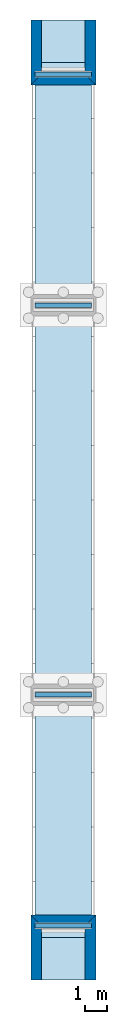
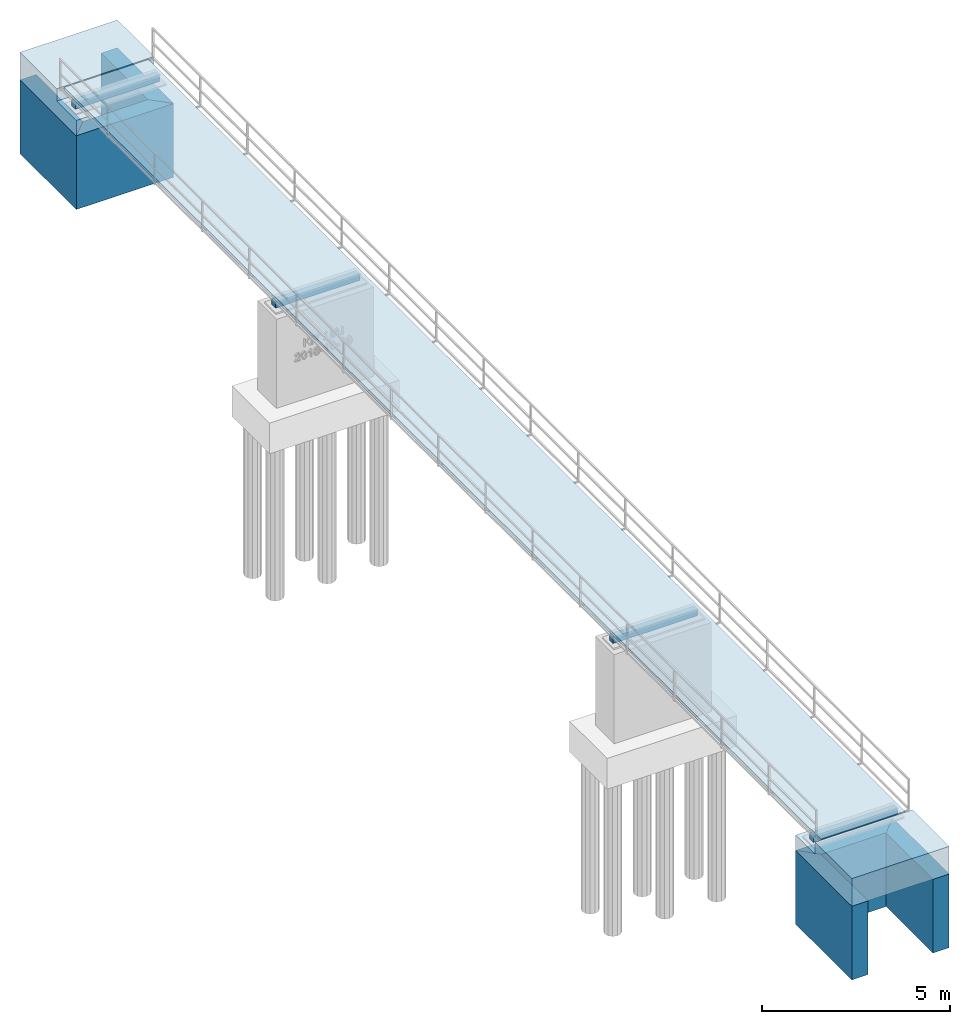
# Not in any storey, part 2 of 5: 6 walls, 4 bearings, 3 slabs.
"""IFC4X2 model written with IfcOpenShell, lengths in millimetres."""

from ifc_helpers import new_model, entity, si_unit, converted_unit, direction, frame, origin, origin_with_axes, place, context, project, spatial, faceted_brep, element, save


model = new_model("IFC4X2")

# Units and contexts
model_context = context("Model", 3, precision=1e-05, world=origin(), true_north=direction((0.0, 1.0)))
ifc_project = project(units=[si_unit("LENGTHUNIT", "METRE", prefix="MILLI"), si_unit("AREAUNIT", "SQUARE_METRE"), si_unit("VOLUMEUNIT", "CUBIC_METRE"), converted_unit("PLANEANGLEUNIT", "DEGREE", entity("IfcPlaneAngleMeasure", 0.01745), si_unit("PLANEANGLEUNIT", "RADIAN"), dimensions=[0, 0, 0, 0, 0, 0, 0]), si_unit("SOLIDANGLEUNIT", "STERADIAN"), si_unit("MASSUNIT", "GRAM"), si_unit("TIMEUNIT", "SECOND"), si_unit("THERMODYNAMICTEMPERATUREUNIT", "DEGREE_CELSIUS"), si_unit("LUMINOUSINTENSITYUNIT", "LUMEN")], contexts=[model_context])

# Site, bridge, bridge part
placement = place(None, origin_with_axes())
site_placement = place(placement, frame((-19933.8083659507, -30174.99999999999, -13595.54569832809), z_axis=(0.0, 0.0, 1.0), x_axis=(1.0, 0.0, 0.0)))
site = spatial("IfcSite", under=ifc_project, at=site_placement, Name="Default Site", CompositionType="ELEMENT")
bridge_placement = place(placement, origin_with_axes())
bridge = spatial("IfcBridge", under=site, at=bridge_placement, Name="KIT - Bridge", CompositionType="ELEMENT")
bridge_part_1_placement = place(bridge_placement, origin_with_axes())
bridge_part_1 = spatial("IfcBridgePart", under=bridge, at=bridge_part_1_placement, Name="Substructure", CompositionType="ELEMENT", PredefinedType="SUPERSTRUCTURE")

# Bearings
bearing_1_placement = place(bridge_part_1_placement, frame((700.0, 18900.0, 2950.000000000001), z_axis=(0.0, 0.0, 1.0), x_axis=(1.0, 0.0, 0.0)))
element("IfcBearing", 1, at=bearing_1_placement, inside=bridge_part_1, Name="Bearing-02", PredefinedType="ELASTOMERIC", context=model_context, shape_type="Brep", body=[
    faceted_brep([(2600.0, 200.0000000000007, 0.0), (0.0, 200.0000000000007, 0.0), (0.0, 200.0000000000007, 200.0), (2600.0, 200.0000000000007, 200.0), (0.0, 0.0, 0.0), (0.0, 0.0, 200.0), (2600.0, 0.0, 0.0), (2600.0, 0.0, 200.0)], [[[0, 1, 2, 3]], [[1, 4, 5, 2]], [[6, 0, 3, 7]], [[4, 6, 7, 5]], [[5, 7, 3, 2]], [[6, 4, 1, 0]]]),
])
bearing_2_placement = place(bridge_part_1_placement, frame((700.0, 900.0, 2950.000000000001), z_axis=(0.0, 0.0, 1.0), x_axis=(1.0, 0.0, 0.0)))
element("IfcBearing", 2, at=bearing_2_placement, inside=bridge_part_1, Name="Bearing-02", PredefinedType="ELASTOMERIC", context=model_context, shape_type="Brep", body=[
    faceted_brep([(0.0, 199.9999999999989, 0.0), (0.0, 0.0, 0.0), (0.0, 0.0, 200.0), (0.0, 199.9999999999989, 200.0), (2600.0, 0.0, 200.0), (2600.0, 199.9999999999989, 200.0), (2600.0, 0.0, 0.0), (2600.0, 199.9999999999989, 0.0)], [[[0, 1, 2, 3]], [[2, 4, 5, 3]], [[6, 7, 5, 4]], [[1, 6, 4, 2]], [[6, 1, 0, 7]], [[7, 0, 3, 5]]]),
])

# Bridge part
bridge_part_2_placement = place(bridge_placement, origin_with_axes())
bridge_part_2 = spatial("IfcBridgePart", under=bridge_part_1, at=bridge_part_2_placement, Name="Abutment 02", CompositionType="ELEMENT", PredefinedType="ABUTMENT")

# Bearing
bearing_3_placement = place(bridge_part_2_placement, frame((699.9999999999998, 29575.00000000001, 2950.000000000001), z_axis=(0.0, 0.0, 1.0), x_axis=(1.0, 0.0, 0.0)))
element("IfcBearing", 3, at=bearing_3_placement, inside=bridge_part_2, Name="Bearing-01", PredefinedType="ELASTOMERIC", context=model_context, shape_type="Brep", body=[
    faceted_brep([(0.0, 199.9999999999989, 0.0), (0.0, 0.0, 0.0), (0.0, 0.0, 200.0), (0.0, 199.9999999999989, 200.0), (2600.0, 0.0, 200.0), (2600.0, 199.9999999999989, 200.0), (2600.0, 0.0, 0.0), (2600.0, 199.9999999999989, 0.0)], [[[0, 1, 2, 3]], [[2, 4, 5, 3]], [[6, 7, 5, 4]], [[1, 6, 4, 2]], [[6, 1, 0, 7]], [[7, 0, 3, 5]]]),
])

# Bridge part
bridge_part_3_placement = place(bridge_placement, origin_with_axes())
bridge_part_3 = spatial("IfcBridgePart", under=bridge_part_1, at=bridge_part_3_placement, Name="Abutment 01", CompositionType="ELEMENT", PredefinedType="ABUTMENT")

# Bearing
bearing_4_placement = place(bridge_part_3_placement, frame((699.9999999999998, -9775.000000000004, 2950.000000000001), z_axis=(0.0, 0.0, 1.0), x_axis=(1.0, 0.0, 0.0)))
element("IfcBearing", 4, at=bearing_4_placement, inside=bridge_part_3, Name="Bearing-04", PredefinedType="ELASTOMERIC", context=model_context, shape_type="Brep", body=[
    faceted_brep([(0.0, 199.9999999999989, 0.0), (0.0, 0.0, 0.0), (0.0, 0.0, 200.0), (0.0, 199.9999999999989, 200.0), (2600.0, 0.0, 200.0), (2600.0, 199.9999999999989, 200.0), (2600.0, 0.0, 0.0), (2600.0, 199.9999999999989, 0.0)], [[[0, 1, 2, 3]], [[2, 4, 5, 3]], [[6, 7, 5, 4]], [[1, 6, 4, 2]], [[6, 1, 0, 7]], [[7, 0, 3, 5]]]),
])

# Bridge part
bridge_part_4_placement = place(bridge_placement, origin_with_axes())
bridge_part_4 = spatial("IfcBridgePart", under=bridge, at=bridge_part_4_placement, Name="Superstructure", CompositionType="ELEMENT", PredefinedType="SUBSTRUCTURE")

# Slabs
slab_1_placement = place(bridge_part_4_placement, frame((700.0, -100.0000000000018, 3199.999999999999), z_axis=(0.0, 0.0, 1.0), x_axis=(1.0, 0.0, 0.0)))
element("IfcSlab", 5, at=slab_1_placement, inside=bridge_part_4, Name="Bridge-Slab-01", context=model_context, shape_type="Brep", body=[
    faceted_brep([(-2.490594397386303e-11, -10075.0, 0.0), (2599.999999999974, -10075.0, 0.0), (2599.999999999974, -10075.0, 100.0000000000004), (-2.490594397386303e-11, -10075.0, 100.0000000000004), (2600.0, 30275.0, 100.0000000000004), (3.609557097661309e-13, 30275.0, 100.0000000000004), (2600.0, 30275.0, 0.0), (3.609557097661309e-13, 30275.0, 0.0)], [[[0, 1, 2, 3]], [[2, 4, 5, 3]], [[6, 7, 5, 4]], [[7, 0, 3, 5]], [[1, 6, 4, 2]], [[6, 1, 0, 7]]]),
])
slab_2_placement = place(bridge_part_2_placement, frame((500.0, 29175.00000000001, 2400.0), z_axis=(0.0, 0.0, 1.0), x_axis=(1.0, 0.0, 0.0)))
element("IfcSlab", 6, at=slab_2_placement, inside=bridge_part_2, context=model_context, shape_type="Brep", body=[
    faceted_brep([(9.023892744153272e-14, 0.0, 0.0), (3000.0, 0.0, 3.609557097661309e-13), (3000.0, 0.0, 500.0000000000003), (0.0, 0.0, 500.0), (3000.0, 1040.0, 500.0000000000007), (0.0, 1040.0, 500.0000000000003), (3000.0, 2999.999999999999, 1.082867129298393e-12), (9.023892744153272e-14, 2999.999999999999, 7.219114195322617e-13), (0.0, 2999.999999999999, 899.9999999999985), (3000.0, 2999.999999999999, 899.9999999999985), (3000.0, 1040.0, 899.9999999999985), (0.0, 1040.0, 899.9999999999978)], [[[0, 1, 2, 3]], [[2, 4, 5, 3]], [[6, 1, 0, 7]], [[6, 7, 8, 9]], [[5, 4, 10, 11]], [[8, 11, 10, 9]], [[7, 0, 3, 5, 11, 8]], [[1, 6, 9, 10, 4, 2]]]),
])
slab_3_placement = place(bridge_part_3_placement, frame((3500.000000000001, -9175.000000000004, 2400.000000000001), z_axis=(0.0, 0.0, 1.0), x_axis=(-1.0, 9.159339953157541e-16, 0.0)))
element("IfcSlab", 7, at=slab_3_placement, inside=bridge_part_3, context=model_context, shape_type="Brep", body=[
    faceted_brep([(9.023892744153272e-14, 0.0, 0.0), (3000.0, 0.0, 3.609557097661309e-13), (3000.0, 0.0, 500.0000000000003), (0.0, 0.0, 500.0), (3000.0, 1040.0, 500.0000000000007), (0.0, 1040.0, 500.0000000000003), (3000.0, 2999.999999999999, 1.082867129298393e-12), (9.023892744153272e-14, 2999.999999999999, 7.219114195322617e-13), (0.0, 2999.999999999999, 899.9999999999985), (3000.0, 2999.999999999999, 899.9999999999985), (3000.0, 1040.0, 899.9999999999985), (0.0, 1040.0, 899.9999999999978)], [[[0, 1, 2, 3]], [[2, 4, 5, 3]], [[6, 1, 0, 7]], [[6, 7, 8, 9]], [[5, 4, 10, 11]], [[8, 11, 10, 9]], [[7, 0, 3, 5, 11, 8]], [[1, 6, 9, 10, 4, 2]]]),
])

# Walls
wall_1_placement = place(bridge_part_2_placement, frame((3000.0, 29175.00000000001, 5.272227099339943e-13), z_axis=(0.0, 0.0, 1.0), x_axis=(1.0, 0.0, 0.0)))
element("IfcWall", 8, at=wall_1_placement, inside=bridge_part_2, PredefinedType="RETAININGWALL", context=model_context, shape_type="Brep", body=[
    faceted_brep([(500.0, 0.0, 2400.000000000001), (0.0, 500.0000000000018, 2400.000000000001), (3.609557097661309e-13, 500.0000000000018, 0.0), (500.0, 0.0, 0.0), (3.609557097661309e-13, 2999.999999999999, 0.0), (500.0, 2999.999999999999, 7.219114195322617e-13), (500.0, 2999.999999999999, 2400.000000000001), (0.0, 2999.999999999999, 2400.000000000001)], [[[0, 1, 2, 3]], [[2, 4, 5, 3]], [[6, 0, 3, 5]], [[7, 6, 5, 4]], [[1, 7, 4, 2]], [[7, 1, 0, 6]]]),
])
wall_2_placement = place(bridge_part_2_placement, frame((500.0, 29175.00000000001, -1.818989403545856e-12), z_axis=(0.0, 0.0, 1.0), x_axis=(1.0, 0.0, 0.0)))
element("IfcWall", 9, at=wall_2_placement, inside=bridge_part_2, PredefinedType="RETAININGWALL", context=model_context, shape_type="Brep", body=[
    faceted_brep([(500.0000000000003, 2999.999999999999, 2400.000000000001), (9.023892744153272e-14, 2999.999999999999, 2400.000000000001), (9.023892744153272e-14, 0.0, 2400.0), (500.0000000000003, 500.0000000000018, 2400.000000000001), (1.173106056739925e-12, 2999.999999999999, 0.0), (1.173106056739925e-12, 0.0, 0.0), (500.0000000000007, 2999.999999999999, 0.0), (500.0000000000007, 500.0000000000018, 0.0)], [[[0, 1, 2, 3]], [[2, 1, 4, 5]], [[6, 7, 5, 4]], [[1, 0, 6, 4]], [[0, 3, 7, 6]], [[3, 2, 5, 7]]]),
])
wall_3_placement = place(bridge_part_2_placement, frame((500.0, 29175.00000000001, -1.818989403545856e-12), z_axis=(0.0, 0.0, 1.0), x_axis=(1.0, 0.0, 0.0)))
element("IfcWall", 10, at=wall_3_placement, inside=bridge_part_2, PredefinedType="RETAININGWALL", context=model_context, shape_type="Brep", body=[
    faceted_brep([(2500.0, 500.0000000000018, 2400.000000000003), (3000.0, 0.0, 2400.000000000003), (3000.0, 0.0, 7.219114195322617e-13), (2500.0, 500.0000000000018, 7.219114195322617e-13), (0.0, 0.0, 2400.000000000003), (500.0, 500.0000000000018, 2400.000000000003), (500.0, 500.0000000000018, 7.219114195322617e-13), (0.0, 0.0, 0.0)], [[[0, 1, 2, 3]], [[4, 1, 0, 5]], [[5, 0, 3, 6]], [[4, 5, 6, 7]], [[2, 7, 6, 3]], [[1, 4, 7, 2]]]),
])
wall_4_placement = place(bridge_part_3_placement, frame((3500.000000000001, -9175.000000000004, -9.094947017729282e-13), z_axis=(0.0, 0.0, 1.0), x_axis=(-1.0, 6.661338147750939e-16, 0.0)))
element("IfcWall", 11, at=wall_4_placement, inside=bridge_part_3, PredefinedType="RETAININGWALL", context=model_context, shape_type="Brep", body=[
    faceted_brep([(2500.0, 500.0000000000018, 2400.000000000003), (3000.0, 0.0, 2400.000000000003), (3000.0, 0.0, 7.219114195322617e-13), (2500.0, 500.0000000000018, 7.219114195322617e-13), (0.0, 0.0, 2400.000000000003), (500.0, 500.0000000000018, 2400.000000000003), (500.0, 500.0000000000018, 7.219114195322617e-13), (0.0, 0.0, 0.0)], [[[0, 1, 2, 3]], [[4, 1, 0, 5]], [[5, 0, 3, 6]], [[4, 5, 6, 7]], [[2, 7, 6, 3]], [[1, 4, 7, 2]]]),
])
wall_5_placement = place(bridge_part_3_placement, frame((3500.000000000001, -9175.000000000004, -9.094947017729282e-13), z_axis=(0.0, 0.0, 1.0), x_axis=(-1.0, 6.661338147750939e-16, 0.0)))
element("IfcWall", 12, at=wall_5_placement, inside=bridge_part_3, PredefinedType="RETAININGWALL", context=model_context, shape_type="Brep", body=[
    faceted_brep([(500.0000000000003, 2999.999999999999, 2400.000000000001), (9.023892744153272e-14, 2999.999999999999, 2400.000000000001), (9.023892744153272e-14, 0.0, 2400.0), (500.0000000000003, 500.0000000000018, 2400.000000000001), (1.173106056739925e-12, 2999.999999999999, 0.0), (1.173106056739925e-12, 0.0, 0.0), (500.0000000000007, 2999.999999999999, 0.0), (500.0000000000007, 500.0000000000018, 0.0)], [[[0, 1, 2, 3]], [[2, 1, 4, 5]], [[6, 7, 5, 4]], [[1, 0, 6, 4]], [[0, 3, 7, 6]], [[3, 2, 5, 7]]]),
])
wall_6_placement = place(bridge_part_3_placement, frame((999.9999999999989, -9175.000000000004, 1.256239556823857e-12), z_axis=(0.0, 0.0, 1.0), x_axis=(-1.0, 6.661338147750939e-16, 0.0)))
element("IfcWall", 13, at=wall_6_placement, inside=bridge_part_3, PredefinedType="RETAININGWALL", context=model_context, shape_type="Brep", body=[
    faceted_brep([(500.0, 0.0, 2400.000000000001), (0.0, 500.0000000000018, 2400.000000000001), (3.609557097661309e-13, 500.0000000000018, 0.0), (500.0, 0.0, 0.0), (3.609557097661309e-13, 2999.999999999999, 0.0), (500.0, 2999.999999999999, 7.219114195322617e-13), (500.0, 2999.999999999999, 2400.000000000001), (0.0, 2999.999999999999, 2400.000000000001)], [[[0, 1, 2, 3]], [[2, 4, 5, 3]], [[6, 0, 3, 5]], [[7, 6, 5, 4]], [[1, 7, 4, 2]], [[7, 1, 0, 6]]]),
])

save(model, "model.ifc")
